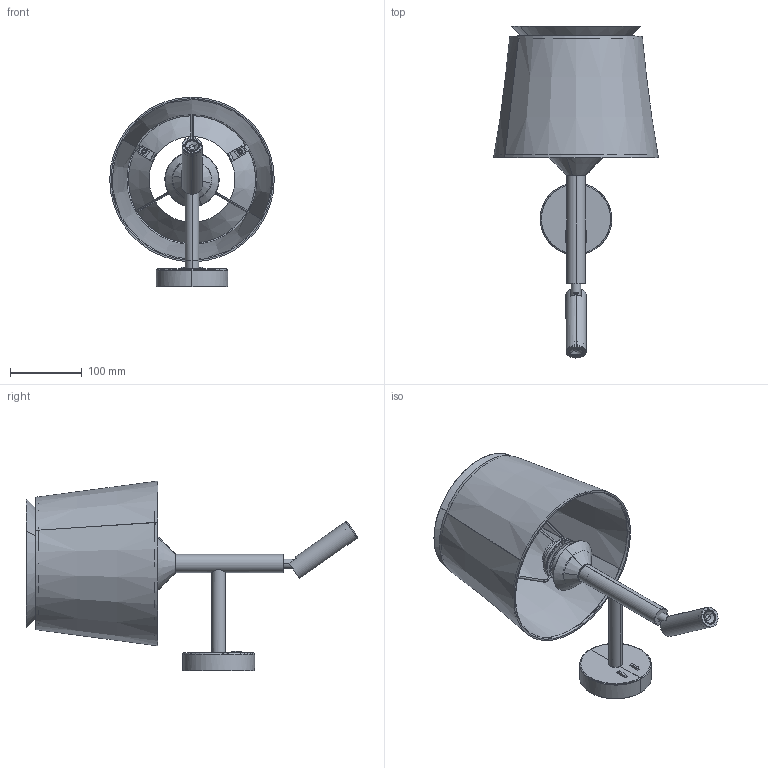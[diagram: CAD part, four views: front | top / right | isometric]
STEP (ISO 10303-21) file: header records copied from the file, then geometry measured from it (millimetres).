
FILE_DESCRIPTION(/* description */ (''),/* implementation_level */ '2;1');
FILE_NAME(/* name */ 'C:\Users\francosartori\Documents\Modelos\01_Indoor\1_SAVOY\03_Publicación\20302_20303\20303_SHADE_20312.stp',/* time_stamp */ '2020-05-21T11:17:32+02:00',/* author */ ('FrancoSartori'),/* organization */ (''),/* preprocessor_version */ 'ST-DEVELOPER v18.1',/* originating_system */ 'AutoCAD Mechanical',/* authorisation */ '');
FILE_SCHEMA (('AUTOMOTIVE_DESIGN { 1 0 10303 214 3 1 1 }'));
Length unit declared in the file: millimetre
Products named in the file (3): Product; 20302_20303_SAVOY - SAVOY STRUCTURE-438356-_3D_; 20310 - SAVOY shade wall lamp-438361-_3D_
Assembly tree (2 placements, depth 2):
  Product
    20302_20303_SAVOY - SAVOY STRUCTURE-438356-_3D_
    20310 - SAVOY shade wall lamp-438361-_3D_
Bounding box: 230 x 463.53 x 265 mm (x, y, z)
Volume: 245767.1 mm3; surface area: 640621.8 mm2
Topology: 17 solids, 19 shells, 414 faces, 1012 edges, 633 vertices
Faces by surface type: plane 170, cylinder 154, cone 50, torus 32, bspline 5, sphere 3
Entity records: 15309 total; most frequent: CARTESIAN_POINT 5605, DIRECTION 1975, ORIENTED_EDGE 1948, EDGE_CURVE 1010, AXIS2_PLACEMENT_3D 751, VERTEX_POINT 633, EDGE_LOOP 477, LINE 473
